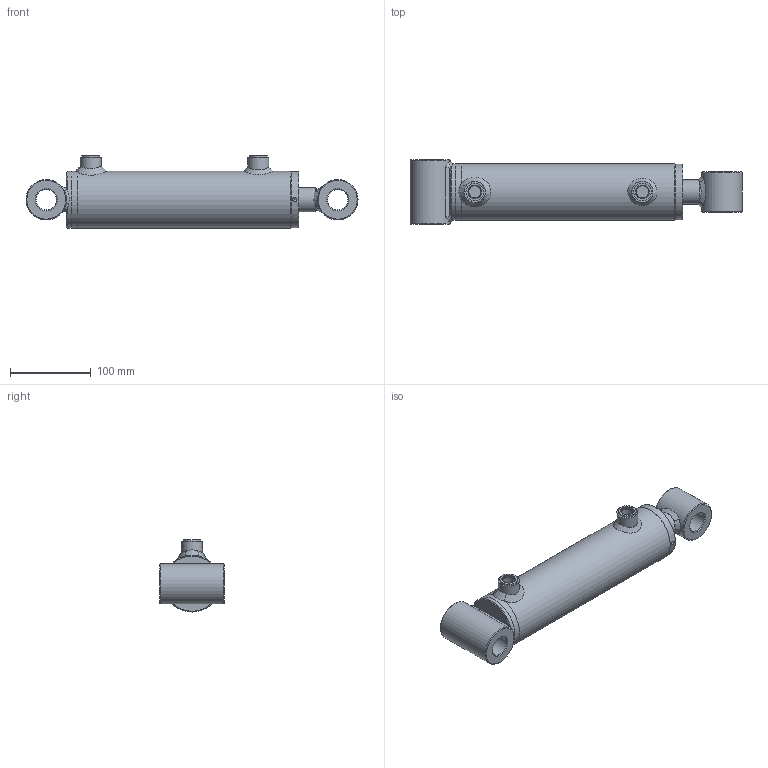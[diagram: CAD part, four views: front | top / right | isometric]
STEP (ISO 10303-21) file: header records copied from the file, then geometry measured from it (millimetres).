
FILE_DESCRIPTION( ( 'Unknown' ), '1' );
FILE_NAME( 'E:/LIBRERIA_3d/CILINDRI/HM2/HM23300150.stp', 'Unknown', ( 'Unknown' ), ( 'Unknown' ), 'PSStep 17.0.49', 'Unknown', ' ' );
FILE_SCHEMA( ( 'AUTOMOTIVE_DESIGN { 1 0 10303 214 1 1 1 1 }' ) );
Length unit declared in the file: millimetre
Products named in the file (26): CG07006030; STL3500150-oa6; Saldatura d'angolo 1-oa4; FTM3500150-oa5; CBSC220600; CT00060020; HM03300150; Saldatura con preparazione 1-oa2; Saldatura d'angolo 1-oa3; CF00060070; CBS0600000; CDA0002015; APG0600000; SBL3030150; Assem1; CB25050050; CB25050080; Saldatura d'angolo 1-oa0; Saldatura d'angolo 2-oa1
Assembly tree (18 placements, depth 4):
  Saldatura d'angolo 1-oa4
  Saldatura d'angolo 1-oa4
  Saldatura d'angolo 1-oa3
  Saldatura d'angolo 1-oa3
  Assem1
    CB25050050
    CB25050080
    HM03300150
      Saldatura con preparazione 1-oa2
      Saldatura con preparazione 1-oa2
      CF00060070
      CBS0600000
      CDA0002015
      APG0600000  x2
      SBL3030150
      CG07006030
        CG07006030
      CT00060020
        CT00060020
      STL3500150-oa6
        FTM3500150-oa5
        CBSC220600
Bounding box: 410 x 80 x 89 mm (x, y, z)
Volume: 919656.5 mm3; surface area: 261703.1 mm2
Topology: 22 solids, 22 shells, 289 faces, 595 edges, 355 vertices
Faces by surface type: bspline 78, plane 74, cylinder 59, cone 40, torus 38
Full cylindrical faces by diameter (mm): 4.25 x1, 5 x2, 6 x2, 7 x2, 14.95 x2, 16 x2, 16.6 x2, 19.4 x1, 20 x5, 22 x2, 24.5 x1, 25.25 x2, 26 x2, 30 x5, 32 x1, 33 x1, 38.6 x1, 40 x1, 44 x1, 50 x2, 55 x1, 55.39 x2, 58.65 x2, 59.9 x1, 60 x1, 60.3 x1, 60.5 x1, 60.6 x1, 61 x1, 62 x3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
Entity records: 17922 total; most frequent: CARTESIAN_POINT 10926, DIRECTION 850, ORIENTED_EDGE 796, EDGE_LOOP 458, AXIS2_PLACEMENT_3D 407, EDGE_CURVE 398, FACE_OUTER_BOUND 376, VERTEX_POINT 305
